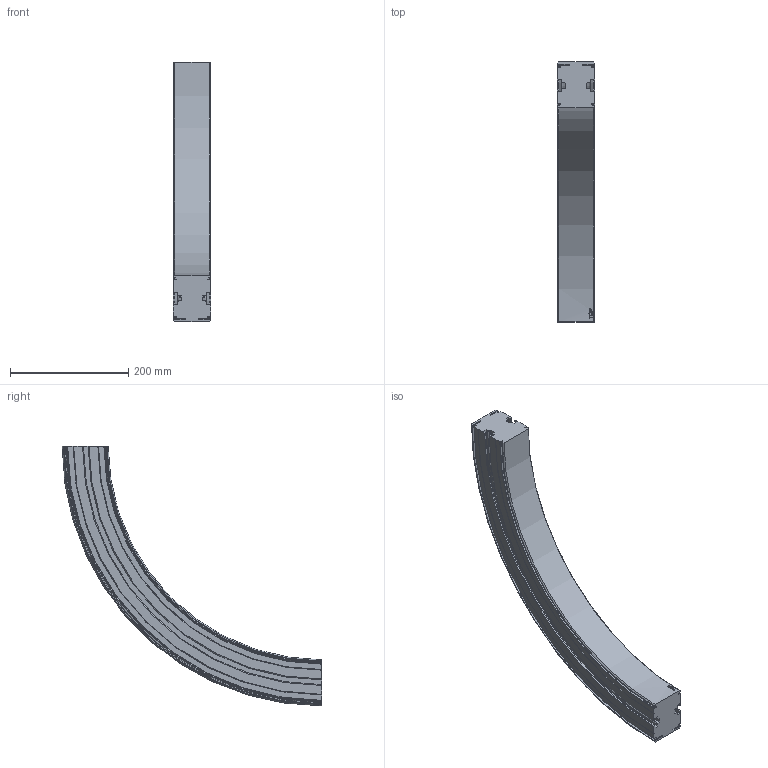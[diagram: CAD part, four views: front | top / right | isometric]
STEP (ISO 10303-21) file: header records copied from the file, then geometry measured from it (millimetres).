
FILE_DESCRIPTION(/* description */ ('VERTIKALKURVA S620 R400'),/* implementation_level */ '2;1');
FILE_NAME(/* name */ '\\carryline.intra\privat\users\mathias\Desktop\Tillfälliga filer\620-5645+620-2000-UPP-01.stp',/* time_stamp */ '2018-12-05T16:06:51+01:00',/* author */ ('MD'),/* organization */ ('CARRYLINE'),/* preprocessor_version */ 'ST-DEVELOPER v17',/* originating_system */ 'Autodesk Inventor 2018',/* authorisation */ '');
FILE_SCHEMA (('AUTOMOTIVE_DESIGN { 1 0 10303 214 3 1 1 }'));
Length unit declared in the file: millimetre
Products named in the file (1): 620-5645+620-2000-UPP-01
Bounding box: 64 x 440 x 440 mm (x, y, z)
Volume: 2808271.6 mm3; surface area: 315165.6 mm2
Topology: 1 solids, 1 shells, 149 faces, 426 edges, 284 vertices
Faces by surface type: plane 54, cylinder 37, torus 28, cone 16, bspline 14
Entity records: 9533 total; most frequent: CARTESIAN_POINT 5513, ORIENTED_EDGE 852, DIRECTION 836, EDGE_CURVE 426, AXIS2_PLACEMENT_3D 315, VERTEX_POINT 284, LINE 206, VECTOR 206
